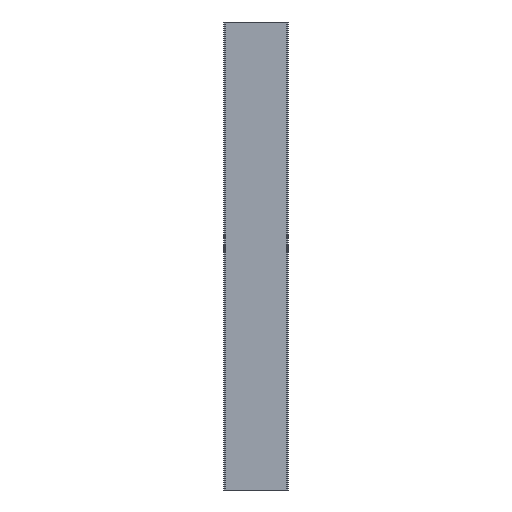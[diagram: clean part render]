
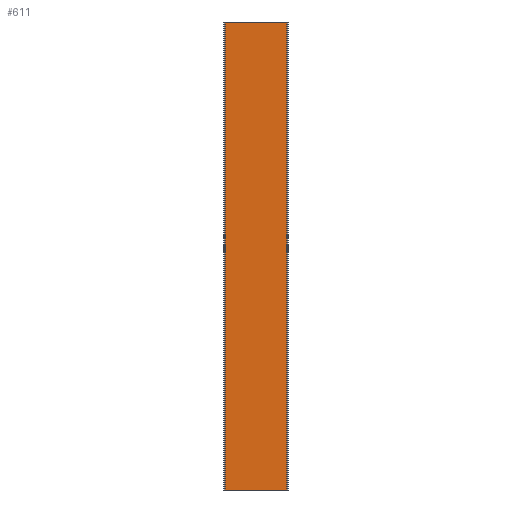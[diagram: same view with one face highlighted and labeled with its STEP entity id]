
A CAD part, left-side view. The second image highlights one B-rep face of the part: STEP entity #611.
In plain terms, the highlighted planar face has unit normal (-1, 0, 0).
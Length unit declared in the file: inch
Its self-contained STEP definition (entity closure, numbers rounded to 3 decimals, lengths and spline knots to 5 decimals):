
#160=DIRECTION('',(0.,1.,0.));
#161=VECTOR('',#160,1.05);
#162=CARTESIAN_POINT('',(0.,-0.525,8.));
#163=LINE('',#162,#161);
#209=DIRECTION('',(0.,1.,0.));
#210=VECTOR('',#209,1.05);
#211=CARTESIAN_POINT('',(0.,-0.525,0.));
#212=LINE('',#211,#210);
#213=DIRECTION('',(0.,0.,-1.));
#214=VECTOR('',#213,8.);
#215=CARTESIAN_POINT('',(0.,-0.525,8.));
#216=LINE('',#215,#214);
#221=DIRECTION('',(0.,0.,-1.));
#222=VECTOR('',#221,8.);
#223=CARTESIAN_POINT('',(0.,0.525,8.));
#224=LINE('',#223,#222);
#267=CARTESIAN_POINT('',(0.,0.525,0.));
#268=VERTEX_POINT('',#267);
#269=CARTESIAN_POINT('',(0.,-0.525,0.));
#270=VERTEX_POINT('',#269);
#329=CARTESIAN_POINT('',(0.,-0.525,8.));
#330=VERTEX_POINT('',#329);
#331=CARTESIAN_POINT('',(0.,0.525,8.));
#332=VERTEX_POINT('',#331);
#599=CARTESIAN_POINT('',(0.,0.525,0.));
#600=DIRECTION('',(-1.,0.,0.));
#601=DIRECTION('',(0.,-1.,0.));
#602=AXIS2_PLACEMENT_3D('',#599,#600,#601);
#603=PLANE('',#602);
#604=ORIENTED_EDGE('',*,*,#352,.T.);
#606=ORIENTED_EDGE('',*,*,#605,.F.);
#607=ORIENTED_EDGE('',*,*,#530,.F.);
#608=ORIENTED_EDGE('',*,*,#592,.T.);
#609=EDGE_LOOP('',(#604,#606,#607,#608));
#610=FACE_OUTER_BOUND('',#609,.F.);
#352=EDGE_CURVE('',#270,#268,#212,.T.);
#530=EDGE_CURVE('',#330,#332,#163,.T.);
#592=EDGE_CURVE('',#330,#270,#216,.T.);
#605=EDGE_CURVE('',#332,#268,#224,.T.);
#611=ADVANCED_FACE('',(#610),#603,.T.);
